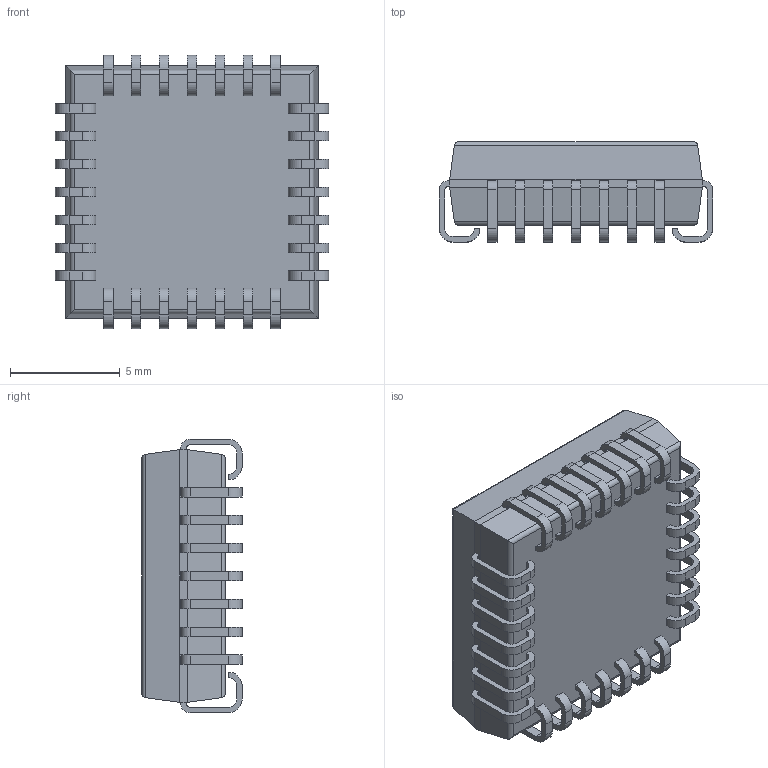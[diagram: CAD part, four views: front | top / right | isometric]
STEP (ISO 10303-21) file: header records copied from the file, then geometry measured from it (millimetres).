
FILE_DESCRIPTION (( 'STEP AP214' ), '1' );
FILE_NAME ( 'PLCC127P1244X1244X457-28.STEP', '2014-04-11T12:31:20', ( '' ), ( '' ), 'FPX Expert 2013', 'PCB Libraries', '' );
FILE_SCHEMA (( 'AUTOMOTIVE_DESIGN' ));
Length unit declared in the file: millimetre
Products named in the file (1): PLCC127P1244X1244X457-28
Bounding box: 12.45 x 4.57 x 12.45 mm (x, y, z)
Volume: 492 mm3; surface area: 583.3 mm2
Topology: 29 solids, 29 shells, 529 faces, 1282 edges, 812 vertices
Faces by surface type: plane 351, cylinder 176, torus 2
Entity records: 18152 total; most frequent: CARTESIAN_POINT 2872, DIRECTION 2788, ORIENTED_EDGE 2788, EDGE_CURVE 1394, VECTOR 1044, LINE 1044, VERTEX_POINT 924, AXIS2_PLACEMENT_3D 872
